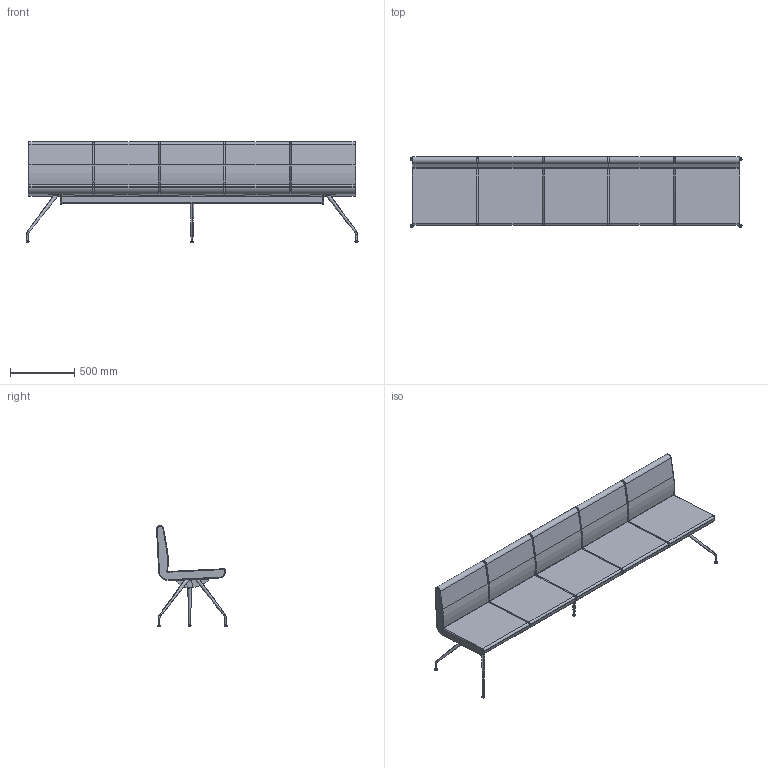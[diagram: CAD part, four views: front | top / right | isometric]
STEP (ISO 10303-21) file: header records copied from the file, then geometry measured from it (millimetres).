
FILE_DESCRIPTION(/* description */ (''),/* implementation_level */ '2;1');
FILE_NAME(/* name */ 'DELTA5~2',/* time_stamp */ '2016-06-16T16:36:33+02:00',/* author */ (''),/* organization */ (''),/* preprocessor_version */ 'ST-DEVELOPER v15',/* originating_system */ '',/* authorisation */ '');
FILE_SCHEMA (('CONFIG_CONTROL_DESIGN'));
Length unit declared in the file: millimetre
Products named in the file (1): Document
Bounding box: 2584 x 551 x 785.18 mm (x, y, z)
Volume: 153531622.4 mm3; surface area: 6321567.1 mm2
Topology: 12 solids, 23 shells, 321 faces, 718 edges, 434 vertices
Faces by surface type: bspline 271, plane 50
Entity records: 10664 total; most frequent: CARTESIAN_POINT 6754, ORIENTED_EDGE 1384, EDGE_CURVE 715, VERTEX_POINT 428, EDGE_LOOP 326, ADVANCED_FACE 321, FACE_OUTER_BOUND 321, B_SPLINE_CURVE_WITH_KNOTS 105
